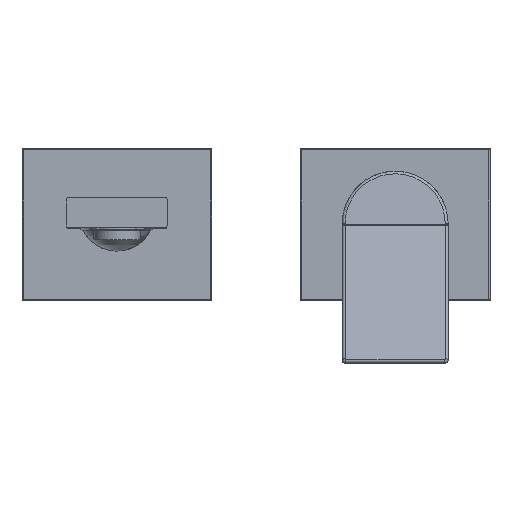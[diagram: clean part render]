
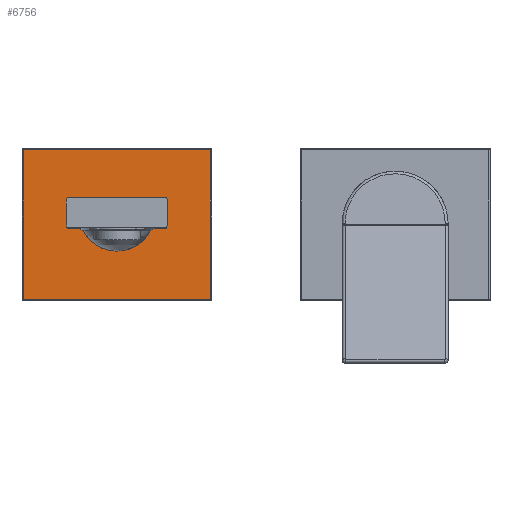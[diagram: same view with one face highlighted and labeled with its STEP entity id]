
A CAD part, top view. The second image highlights one B-rep face of the part: STEP entity #6756.
In plain terms, the highlighted planar face has unit normal (0, 0, 1).
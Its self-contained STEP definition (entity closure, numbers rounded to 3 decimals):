
#3801=DIRECTION('',(-1.,0.,0.));
#3802=VECTOR('',#3801,74.);
#3803=CARTESIAN_POINT('',(-75.,29.5,45.7));
#3804=LINE('',#3803,#3802);
#3805=DIRECTION('',(0.,1.,0.));
#3806=VECTOR('',#3805,59.);
#3807=CARTESIAN_POINT('',(-75.,-29.5,45.7));
#3808=LINE('',#3807,#3806);
#3809=DIRECTION('',(1.,0.,0.));
#3810=VECTOR('',#3809,74.);
#3811=CARTESIAN_POINT('',(-149.,-29.5,45.7));
#3812=LINE('',#3811,#3810);
#3813=DIRECTION('',(0.,-1.,0.));
#3814=VECTOR('',#3813,59.);
#3815=CARTESIAN_POINT('',(-149.,29.5,45.7));
#3816=LINE('',#3815,#3814);
#3817=DIRECTION('',(0.,-1.,0.));
#3818=VECTOR('',#3817,9.);
#3819=CARTESIAN_POINT('',(-92.,9.,45.7));
#3820=LINE('',#3819,#3818);
#3821=CARTESIAN_POINT('',(-112.,4.5,45.7));
#3822=DIRECTION('',(0.,0.,-1.));
#3823=DIRECTION('',(0.956,0.293,0.));
#3824=AXIS2_PLACEMENT_3D('',#3821,#3822,#3823);
#3826=DIRECTION('',(1.,0.,0.));
#3827=VECTOR('',#3826,39.205);
#3828=CARTESIAN_POINT('',(-131.602,10.5,45.7));
#3829=LINE('',#3828,#3827);
#3830=CARTESIAN_POINT('',(-112.,4.5,45.7));
#3831=DIRECTION('',(0.,0.,-1.));
#3832=DIRECTION('',(-0.976,0.22,0.));
#3833=AXIS2_PLACEMENT_3D('',#3830,#3831,#3832);
#3835=DIRECTION('',(0.,1.,0.));
#3836=VECTOR('',#3835,9.);
#3837=CARTESIAN_POINT('',(-132.,0.,45.7));
#3838=LINE('',#3837,#3836);
#3839=CARTESIAN_POINT('',(-112.,4.5,45.7));
#3840=DIRECTION('',(0.,0.,-1.));
#3841=DIRECTION('',(-0.956,-0.293,0.));
#3842=AXIS2_PLACEMENT_3D('',#3839,#3840,#3841);
#3844=DIRECTION('',(-1.,0.,0.));
#3845=VECTOR('',#3844,4.922);
#3846=CARTESIAN_POINT('',(-126.68,-1.5,45.7));
#3847=LINE('',#3846,#3845);
#3848=DIRECTION('',(-0.819,0.574,0.));
#3849=VECTOR('',#3848,1.715);
#3850=CARTESIAN_POINT('',(-125.275,-2.484,45.7));
#3851=LINE('',#3850,#3849);
#3852=CARTESIAN_POINT('',(-125.275,-2.484,45.7));
#3853=CARTESIAN_POINT('',(-124.432,-4.086,45.7));
#3854=CARTESIAN_POINT('',(-122.159,-6.982,45.7));
#3855=CARTESIAN_POINT('',(-117.432,-9.837,45.7));
#3856=CARTESIAN_POINT('',(-113.811,-10.5,45.7));
#3857=CARTESIAN_POINT('',(-112.,-10.5,45.7));
#3859=CARTESIAN_POINT('',(-112.,-10.5,45.7));
#3860=CARTESIAN_POINT('',(-110.189,-10.5,45.7));
#3861=CARTESIAN_POINT('',(-106.568,-9.837,45.7));
#3862=CARTESIAN_POINT('',(-101.841,-6.982,45.7));
#3863=CARTESIAN_POINT('',(-99.568,-4.086,45.7));
#3864=CARTESIAN_POINT('',(-98.725,-2.484,45.7));
#3866=DIRECTION('',(-0.819,-0.574,0.));
#3867=VECTOR('',#3866,1.715);
#3868=CARTESIAN_POINT('',(-97.32,-1.5,45.7));
#3869=LINE('',#3868,#3867);
#3870=DIRECTION('',(-1.,0.,0.));
#3871=VECTOR('',#3870,4.922);
#3872=CARTESIAN_POINT('',(-92.398,-1.5,45.7));
#3873=LINE('',#3872,#3871);
#3874=CARTESIAN_POINT('',(-112.,4.5,45.7));
#3875=DIRECTION('',(0.,0.,-1.));
#3876=DIRECTION('',(0.976,-0.22,0.));
#3877=AXIS2_PLACEMENT_3D('',#3874,#3875,#3876);
#4683=CARTESIAN_POINT('',(-75.,29.5,45.7));
#4684=CARTESIAN_POINT('',(-149.,29.5,45.7));
#4685=VERTEX_POINT('',#4683);
#4686=VERTEX_POINT('',#4684);
#4693=CARTESIAN_POINT('',(-149.,-29.5,45.7));
#4694=VERTEX_POINT('',#4693);
#4697=CARTESIAN_POINT('',(-75.,-29.5,45.7));
#4698=VERTEX_POINT('',#4697);
#4789=CARTESIAN_POINT('',(-92.,9.,45.7));
#4790=CARTESIAN_POINT('',(-92.,0.,45.7));
#4791=VERTEX_POINT('',#4789);
#4792=VERTEX_POINT('',#4790);
#4793=CARTESIAN_POINT('',(-92.398,-1.5,45.7));
#4794=CARTESIAN_POINT('',(-97.32,-1.5,45.7));
#4795=VERTEX_POINT('',#4793);
#4796=VERTEX_POINT('',#4794);
#4797=CARTESIAN_POINT('',(-126.68,-1.5,45.7));
#4798=CARTESIAN_POINT('',(-131.602,-1.5,45.7));
#4799=VERTEX_POINT('',#4797);
#4800=VERTEX_POINT('',#4798);
#4801=CARTESIAN_POINT('',(-132.,0.,45.7));
#4802=CARTESIAN_POINT('',(-132.,9.,45.7));
#4803=VERTEX_POINT('',#4801);
#4804=VERTEX_POINT('',#4802);
#4805=CARTESIAN_POINT('',(-131.602,10.5,45.7));
#4806=CARTESIAN_POINT('',(-92.398,10.5,45.7));
#4807=VERTEX_POINT('',#4805);
#4808=VERTEX_POINT('',#4806);
#4809=VERTEX_POINT('',#3859);
#4810=VERTEX_POINT('',#3864);
#4811=VERTEX_POINT('',#3852);
#6714=CARTESIAN_POINT('',(-112.,0.,45.7));
#6715=DIRECTION('',(0.,0.,1.));
#6716=DIRECTION('',(0.,-1.,0.));
#6717=AXIS2_PLACEMENT_3D('',#6714,#6715,#6716);
#6718=PLANE('',#6717);
#6720=ORIENTED_EDGE('',*,*,#6719,.F.);
#6722=ORIENTED_EDGE('',*,*,#6721,.F.);
#6724=ORIENTED_EDGE('',*,*,#6723,.F.);
#6726=ORIENTED_EDGE('',*,*,#6725,.F.);
#6727=EDGE_LOOP('',(#6720,#6722,#6724,#6726));
#6728=FACE_OUTER_BOUND('',#6727,.F.);
#6730=ORIENTED_EDGE('',*,*,#6729,.F.);
#6732=ORIENTED_EDGE('',*,*,#6731,.F.);
#6734=ORIENTED_EDGE('',*,*,#6733,.F.);
#6736=ORIENTED_EDGE('',*,*,#6735,.F.);
#6738=ORIENTED_EDGE('',*,*,#6737,.F.);
#6740=ORIENTED_EDGE('',*,*,#6739,.F.);
#6742=ORIENTED_EDGE('',*,*,#6741,.F.);
#6744=ORIENTED_EDGE('',*,*,#6743,.F.);
#6745=ORIENTED_EDGE('',*,*,#6698,.T.);
#6747=ORIENTED_EDGE('',*,*,#6746,.T.);
#6749=ORIENTED_EDGE('',*,*,#6748,.F.);
#6751=ORIENTED_EDGE('',*,*,#6750,.F.);
#6753=ORIENTED_EDGE('',*,*,#6752,.F.);
#6754=EDGE_LOOP('',(#6730,#6732,#6734,#6736,#6738,#6740,#6742,#6744,#6745,#6747,
#6749,#6751,#6753));
#6755=FACE_BOUND('',#6754,.F.);
#6756=ADVANCED_FACE('',(#6728,#6755),#6718,.T.);
#3825=CIRCLE('',#3824,20.5);
#3834=CIRCLE('',#3833,20.5);
#3843=CIRCLE('',#3842,20.5);
#3858=B_SPLINE_CURVE_WITH_KNOTS('',3,(#3852,#3853,#3854,#3855,#3856,#3857),
.UNSPECIFIED.,.F.,.F.,(4,1,1,4),(0.,0.333,0.667,1.),
.UNSPECIFIED.);
#3865=B_SPLINE_CURVE_WITH_KNOTS('',3,(#3859,#3860,#3861,#3862,#3863,#3864),
.UNSPECIFIED.,.F.,.F.,(4,1,1,4),(0.,0.333,0.667,1.),
.UNSPECIFIED.);
#3878=CIRCLE('',#3877,20.5);
#6698=EDGE_CURVE('',#4811,#4809,#3858,.T.);
#6719=EDGE_CURVE('',#4685,#4686,#3804,.T.);
#6721=EDGE_CURVE('',#4698,#4685,#3808,.T.);
#6723=EDGE_CURVE('',#4694,#4698,#3812,.T.);
#6725=EDGE_CURVE('',#4686,#4694,#3816,.T.);
#6729=EDGE_CURVE('',#4791,#4792,#3820,.T.);
#6731=EDGE_CURVE('',#4808,#4791,#3825,.T.);
#6733=EDGE_CURVE('',#4807,#4808,#3829,.T.);
#6735=EDGE_CURVE('',#4804,#4807,#3834,.T.);
#6737=EDGE_CURVE('',#4803,#4804,#3838,.T.);
#6739=EDGE_CURVE('',#4800,#4803,#3843,.T.);
#6741=EDGE_CURVE('',#4799,#4800,#3847,.T.);
#6743=EDGE_CURVE('',#4811,#4799,#3851,.T.);
#6746=EDGE_CURVE('',#4809,#4810,#3865,.T.);
#6748=EDGE_CURVE('',#4796,#4810,#3869,.T.);
#6750=EDGE_CURVE('',#4795,#4796,#3873,.T.);
#6752=EDGE_CURVE('',#4792,#4795,#3878,.T.);
